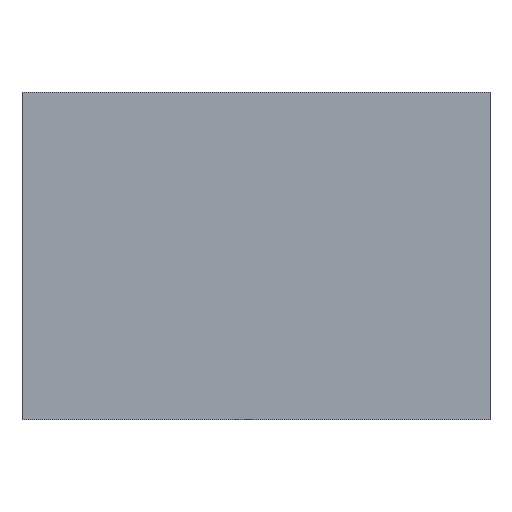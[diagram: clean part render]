
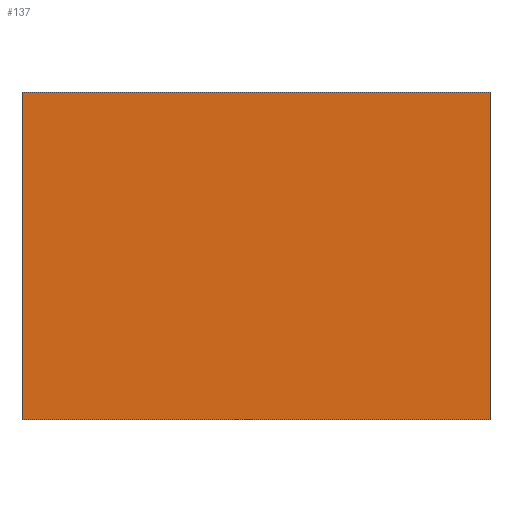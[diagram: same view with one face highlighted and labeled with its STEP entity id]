
A CAD part, left-side view. The second image highlights one B-rep face of the part: STEP entity #137.
In plain terms, the highlighted planar face has unit normal (-1, 0, 0).
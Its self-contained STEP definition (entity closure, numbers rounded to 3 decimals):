
#21 = EDGE_CURVE('',#22,#24,#26,.T.);
#22 = VERTEX_POINT('',#23);
#23 = CARTESIAN_POINT('',(0.,0.,0.));
#24 = VERTEX_POINT('',#25);
#25 = CARTESIAN_POINT('',(0.,0.,7.));
#26 = SURFACE_CURVE('',#27,(#31,#43),.PCURVE_S1.);
#27 = LINE('',#28,#29);
#28 = CARTESIAN_POINT('',(0.,0.,0.));
#29 = VECTOR('',#30,1.);
#30 = DIRECTION('',(0.,0.,1.));
#31 = PCURVE('',#32,#37);
#32 = PLANE('',#33);
#33 = AXIS2_PLACEMENT_3D('',#34,#35,#36);
#34 = CARTESIAN_POINT('',(0.,0.,0.));
#35 = DIRECTION('',(0.,1.,0.));
#36 = DIRECTION('',(1.,0.,0.));
#37 = DEFINITIONAL_REPRESENTATION('',(#38),#42);
#38 = LINE('',#39,#40);
#39 = CARTESIAN_POINT('',(0.,0.));
#40 = VECTOR('',#41,1.);
#41 = DIRECTION('',(0.,-1.));
#42 = ( GEOMETRIC_REPRESENTATION_CONTEXT(2) 
PARAMETRIC_REPRESENTATION_CONTEXT() REPRESENTATION_CONTEXT('2D SPACE',''
  ) );
#43 = PCURVE('',#44,#49);
#44 = PLANE('',#45);
#45 = AXIS2_PLACEMENT_3D('',#46,#47,#48);
#46 = CARTESIAN_POINT('',(0.,10.,0.));
#47 = DIRECTION('',(1.,0.,0.));
#48 = DIRECTION('',(0.,-1.,0.));
#49 = DEFINITIONAL_REPRESENTATION('',(#50),#54);
#50 = LINE('',#51,#52);
#51 = CARTESIAN_POINT('',(10.,0.));
#52 = VECTOR('',#53,1.);
#53 = DIRECTION('',(0.,-1.));
#54 = ( GEOMETRIC_REPRESENTATION_CONTEXT(2) 
PARAMETRIC_REPRESENTATION_CONTEXT() REPRESENTATION_CONTEXT('2D SPACE',''
  ) );
#72 = PLANE('',#73);
#73 = AXIS2_PLACEMENT_3D('',#74,#75,#76);
#74 = CARTESIAN_POINT('',(2.25,5.,7.));
#75 = DIRECTION('',(0.,0.,1.));
#76 = DIRECTION('',(1.,0.,0.));
#126 = PLANE('',#127);
#127 = AXIS2_PLACEMENT_3D('',#128,#129,#130);
#128 = CARTESIAN_POINT('',(2.25,5.,0.));
#129 = DIRECTION('',(0.,0.,1.));
#130 = DIRECTION('',(1.,0.,0.));
#137 = ADVANCED_FACE('',(#138),#44,.F.);
#138 = FACE_BOUND('',#139,.F.);
#139 = EDGE_LOOP('',(#140,#170,#191,#192));
#140 = ORIENTED_EDGE('',*,*,#141,.T.);
#141 = EDGE_CURVE('',#142,#144,#146,.T.);
#142 = VERTEX_POINT('',#143);
#143 = CARTESIAN_POINT('',(0.,10.,0.));
#144 = VERTEX_POINT('',#145);
#145 = CARTESIAN_POINT('',(0.,10.,7.));
#146 = SURFACE_CURVE('',#147,(#151,#158),.PCURVE_S1.);
#147 = LINE('',#148,#149);
#148 = CARTESIAN_POINT('',(0.,10.,0.));
#149 = VECTOR('',#150,1.);
#150 = DIRECTION('',(0.,0.,1.));
#151 = PCURVE('',#44,#152);
#152 = DEFINITIONAL_REPRESENTATION('',(#153),#157);
#153 = LINE('',#154,#155);
#154 = CARTESIAN_POINT('',(0.,0.));
#155 = VECTOR('',#156,1.);
#156 = DIRECTION('',(0.,-1.));
#157 = ( GEOMETRIC_REPRESENTATION_CONTEXT(2) 
PARAMETRIC_REPRESENTATION_CONTEXT() REPRESENTATION_CONTEXT('2D SPACE',''
  ) );
#158 = PCURVE('',#159,#164);
#159 = PLANE('',#160);
#160 = AXIS2_PLACEMENT_3D('',#161,#162,#163);
#161 = CARTESIAN_POINT('',(4.5,10.,0.));
#162 = DIRECTION('',(0.,-1.,0.));
#163 = DIRECTION('',(-1.,0.,0.));
#164 = DEFINITIONAL_REPRESENTATION('',(#165),#169);
#165 = LINE('',#166,#167);
#166 = CARTESIAN_POINT('',(4.5,0.));
#167 = VECTOR('',#168,1.);
#168 = DIRECTION('',(0.,-1.));
#169 = ( GEOMETRIC_REPRESENTATION_CONTEXT(2) 
PARAMETRIC_REPRESENTATION_CONTEXT() REPRESENTATION_CONTEXT('2D SPACE',''
  ) );
#170 = ORIENTED_EDGE('',*,*,#171,.T.);
#171 = EDGE_CURVE('',#144,#24,#172,.T.);
#172 = SURFACE_CURVE('',#173,(#177,#184),.PCURVE_S1.);
#173 = LINE('',#174,#175);
#174 = CARTESIAN_POINT('',(0.,10.,7.));
#175 = VECTOR('',#176,1.);
#176 = DIRECTION('',(0.,-1.,0.));
#177 = PCURVE('',#44,#178);
#178 = DEFINITIONAL_REPRESENTATION('',(#179),#183);
#179 = LINE('',#180,#181);
#180 = CARTESIAN_POINT('',(0.,-7.));
#181 = VECTOR('',#182,1.);
#182 = DIRECTION('',(1.,0.));
#183 = ( GEOMETRIC_REPRESENTATION_CONTEXT(2) 
PARAMETRIC_REPRESENTATION_CONTEXT() REPRESENTATION_CONTEXT('2D SPACE',''
  ) );
#184 = PCURVE('',#72,#185);
#185 = DEFINITIONAL_REPRESENTATION('',(#186),#190);
#186 = LINE('',#187,#188);
#187 = CARTESIAN_POINT('',(-2.25,5.));
#188 = VECTOR('',#189,1.);
#189 = DIRECTION('',(0.,-1.));
#190 = ( GEOMETRIC_REPRESENTATION_CONTEXT(2) 
PARAMETRIC_REPRESENTATION_CONTEXT() REPRESENTATION_CONTEXT('2D SPACE',''
  ) );
#191 = ORIENTED_EDGE('',*,*,#21,.F.);
#192 = ORIENTED_EDGE('',*,*,#193,.F.);
#193 = EDGE_CURVE('',#142,#22,#194,.T.);
#194 = SURFACE_CURVE('',#195,(#199,#206),.PCURVE_S1.);
#195 = LINE('',#196,#197);
#196 = CARTESIAN_POINT('',(0.,10.,0.));
#197 = VECTOR('',#198,1.);
#198 = DIRECTION('',(0.,-1.,0.));
#199 = PCURVE('',#44,#200);
#200 = DEFINITIONAL_REPRESENTATION('',(#201),#205);
#201 = LINE('',#202,#203);
#202 = CARTESIAN_POINT('',(0.,0.));
#203 = VECTOR('',#204,1.);
#204 = DIRECTION('',(1.,0.));
#205 = ( GEOMETRIC_REPRESENTATION_CONTEXT(2) 
PARAMETRIC_REPRESENTATION_CONTEXT() REPRESENTATION_CONTEXT('2D SPACE',''
  ) );
#206 = PCURVE('',#126,#207);
#207 = DEFINITIONAL_REPRESENTATION('',(#208),#212);
#208 = LINE('',#209,#210);
#209 = CARTESIAN_POINT('',(-2.25,5.));
#210 = VECTOR('',#211,1.);
#211 = DIRECTION('',(0.,-1.));
#212 = ( GEOMETRIC_REPRESENTATION_CONTEXT(2) 
PARAMETRIC_REPRESENTATION_CONTEXT() REPRESENTATION_CONTEXT('2D SPACE',''
  ) );
